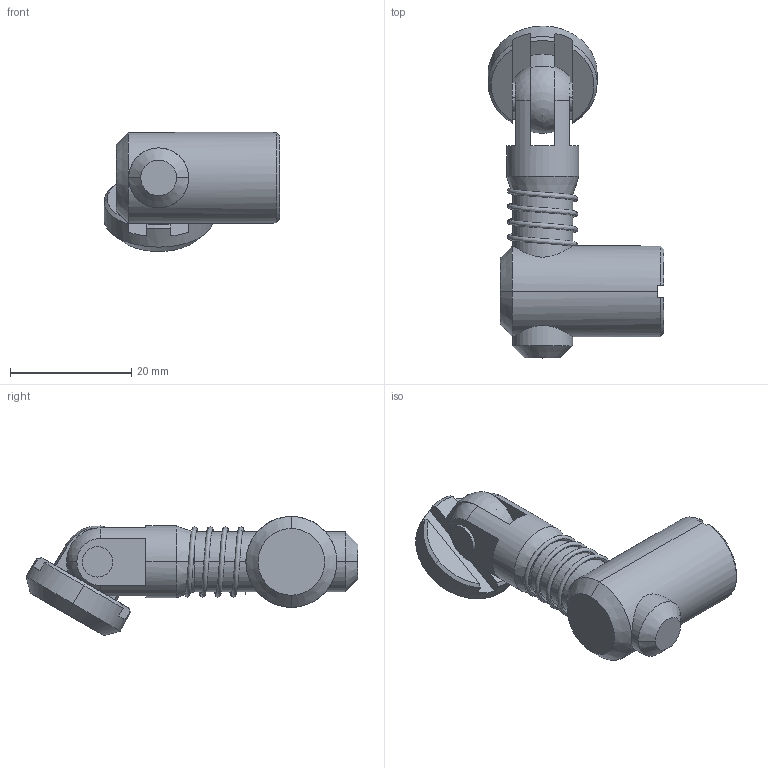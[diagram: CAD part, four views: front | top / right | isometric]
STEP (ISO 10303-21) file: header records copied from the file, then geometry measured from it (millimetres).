
FILE_DESCRIPTION (( 'STEP AP214' ), '1' );
FILE_NAME ('2.04.spop.STEP', '2015-05-30T09:37:10', ( '' ), ( '' ), 'SwSTEP 2.0', 'SolidWorks 2015', '' );
FILE_SCHEMA (( 'AUTOMOTIVE_DESIGN' ));
Length unit declared in the file: millimetre
Products named in the file (1): 2.04.spop
Bounding box: 29 x 54.79 x 19.66 mm (x, y, z)
Surface area: 5671.8 mm2 (no closed solid volume)
Topology: 0 solids, 6 shells, 87 faces, 237 edges, 156 vertices
Faces by surface type: plane 45, cone 19, cylinder 16, sphere 5, bspline 2
Entity records: 4699 total; most frequent: CARTESIAN_POINT 2476, DIRECTION 461, ORIENTED_EDGE 444, EDGE_CURVE 232, AXIS2_PLACEMENT_3D 177, VERTEX_POINT 154, LINE 107, VECTOR 107
